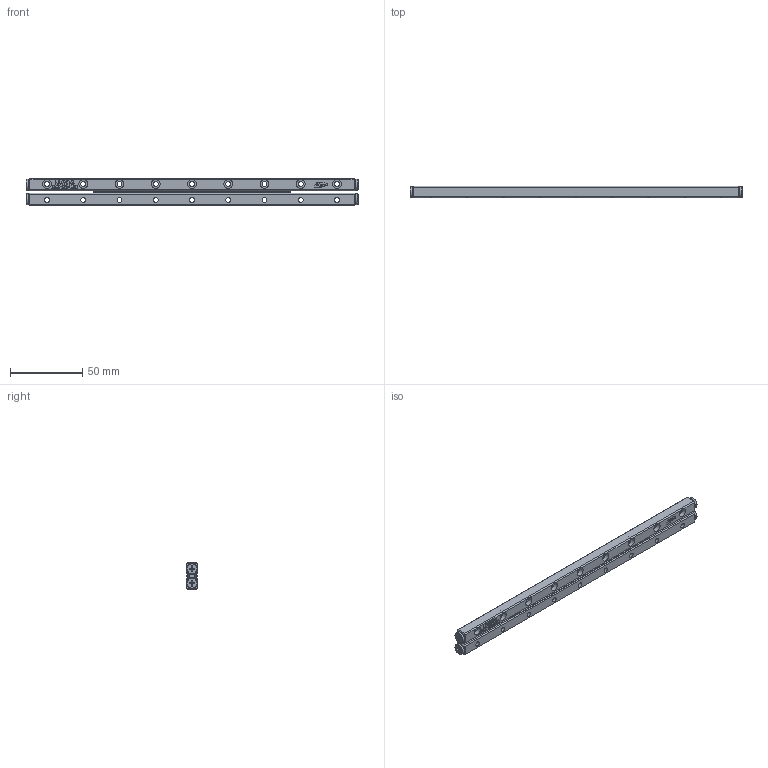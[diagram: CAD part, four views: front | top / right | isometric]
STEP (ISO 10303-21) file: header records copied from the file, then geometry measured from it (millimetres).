
FILE_DESCRIPTION (( 'STEP AP203' ), '1' );
FILE_NAME ('GRV03-225.STEP', '2023-10-20T00:24:59', ( '' ), ( '' ), 'SwSTEP 2.0', 'SolidWorks 2019', '' );
FILE_SCHEMA (( 'CONFIG_CONTROL_DESIGN' ));
Length unit declared in the file: millimetre
Products named in the file (3): GRV03-225-模糊化軌道; GRV03-225; GRVP03-225-模糊化保持器組
Assembly tree (3 placements, depth 2):
  GRV03-225
    GRV03-225-模糊化軌道  x2
    GRVP03-225-模糊化保持器組
Bounding box: 229 x 8 x 18 mm (x, y, z)
Volume: 27400.7 mm3; surface area: 20200 mm2
Topology: 3 solids, 3 shells, 1226 faces, 3046 edges, 1980 vertices
Faces by surface type: plane 788, cylinder 204, bspline 136, torus 62, cone 36
Full cylindrical faces by diameter (mm): 3.35 x18, 6 x18, 7.5 x4
Entity records: 29113 total; most frequent: CARTESIAN_POINT 9609, ORIENTED_EDGE 4128, DIRECTION 3531, EDGE_CURVE 2064, VERTEX_POINT 1363, LINE 1301, VECTOR 1301, AXIS2_PLACEMENT_3D 1115
